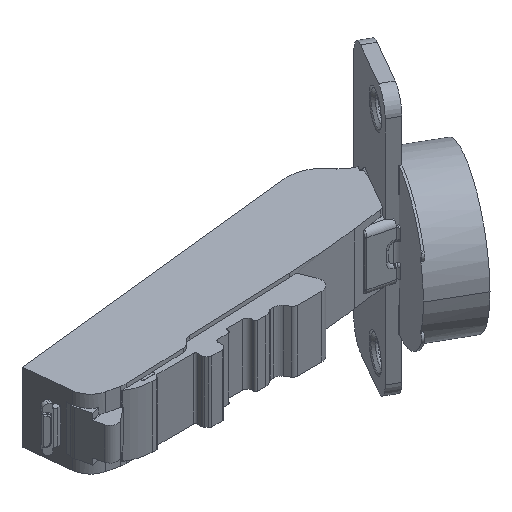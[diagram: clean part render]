
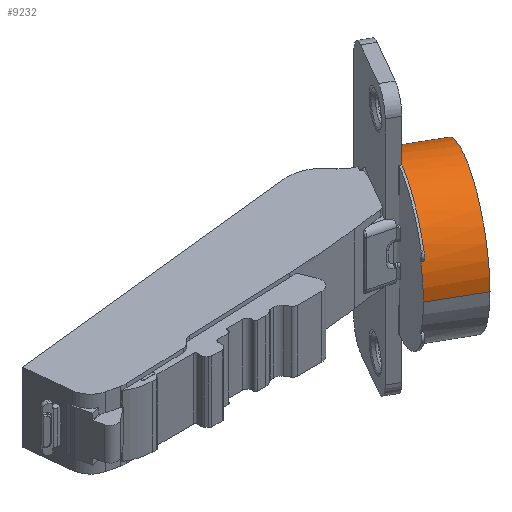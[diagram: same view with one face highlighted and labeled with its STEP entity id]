
A CAD part, isometric view. The second image highlights one B-rep face of the part: STEP entity #9232.
In plain terms, the highlighted cylindrical face has radius 17.4 mm (diameter 34.8 mm), a partial arc.
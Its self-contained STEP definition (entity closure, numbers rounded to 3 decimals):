
#79 = VECTOR ( 'NONE', #2975, 1000. ) ;
#163 = CARTESIAN_POINT ( 'NONE',  ( 0.106, 63.279, 0.05 ) ) ;
#503 = DIRECTION ( 'NONE',  ( 0.866, -0.5, 0. ) ) ;
#526 = DIRECTION ( 'NONE',  ( 0.5, 0.866, 0. ) ) ;
#930 = B_SPLINE_CURVE_WITH_KNOTS ( 'NONE', 3,
 ( #11228, #5762, #3821, #4692 ),
 .UNSPECIFIED., .F., .F.,
 ( 4, 4 ),
 ( 0., 0.001 ),
 .UNSPECIFIED. ) ;
#1232 = LINE ( 'NONE', #6026, #4247 ) ;
#1440 = FACE_OUTER_BOUND ( 'NONE', #5214, .T. ) ;
#1967 = CARTESIAN_POINT ( 'NONE',  ( 43.16, 38.422, 0.05 ) ) ;
#2103 = CARTESIAN_POINT ( 'NONE',  ( 34.027, 23.603, 0.05 ) ) ;
#2856 = CARTESIAN_POINT ( 'NONE',  ( 26.324, 10.262, 8.14 ) ) ;
#2953 = ORIENTED_EDGE ( 'NONE', *, *, #10926, .F. ) ;
#2975 = DIRECTION ( 'NONE',  ( 0.866, -0.5, 0. ) ) ;
#3214 = DIRECTION ( 'NONE',  ( -0.866, 0.5, 0. ) ) ;
#3363 = ORIENTED_EDGE ( 'NONE', *, *, #8184, .T. ) ;
#3549 = EDGE_CURVE ( 'NONE', #7477, #5950, #4778, .T. ) ;
#3669 = EDGE_CURVE ( 'NONE', #7077, #10464, #9625, .T. ) ;
#3676 = EDGE_CURVE ( 'NONE', #3816, #6112, #1232, .T. ) ;
#3747 = EDGE_CURVE ( 'NONE', #5950, #10020, #9235, .T. ) ;
#3790 = CARTESIAN_POINT ( 'NONE',  ( -17.294, 33.142, 0.05 ) ) ;
#3816 = VERTEX_POINT ( 'NONE', #8257 ) ;
#3821 = CARTESIAN_POINT ( 'NONE',  ( 26.243, 10.077, 7.748 ) ) ;
#3973 = ORIENTED_EDGE ( 'NONE', *, *, #3747, .F. ) ;
#4185 = DIRECTION ( 'NONE',  ( 0.5, 0.866, 0. ) ) ;
#4208 = CARTESIAN_POINT ( 'NONE',  ( 44.419, 17.603, 0.05 ) ) ;
#4247 = VECTOR ( 'NONE', #4266, 1000. ) ;
#4266 = DIRECTION ( 'NONE',  ( -0.866, 0.5, 0. ) ) ;
#4692 = CARTESIAN_POINT ( 'NONE',  ( 26.218, 9.982, 7.55 ) ) ;
#4714 = DIRECTION ( 'NONE',  ( 0.866, -0.5, 0. ) ) ;
#4778 = LINE ( 'NONE', #163, #79 ) ;
#4782 = DIRECTION ( 'NONE',  ( 0.866, -0.5, 0. ) ) ;
#5042 = CARTESIAN_POINT ( 'NONE',  ( 53.119, 32.672, 0.05 ) ) ;
#5059 = ORIENTED_EDGE ( 'NONE', *, *, #3549, .F. ) ;
#5083 = DIRECTION ( 'NONE',  ( 0., 0., 1. ) ) ;
#5214 = EDGE_LOOP ( 'NONE', ( #7770, #3363, #3973, #5059, #9036, #9607, #2953 ) ) ;
#5240 = CYLINDRICAL_SURFACE ( 'NONE', #9101, 17.4 ) ;
#5762 = CARTESIAN_POINT ( 'NONE',  ( 26.273, 10.173, 7.944 ) ) ;
#5950 = VERTEX_POINT ( 'NONE', #5042 ) ;
#6026 = CARTESIAN_POINT ( 'NONE',  ( 26.523, 9.806, 7.55 ) ) ;
#6112 = VERTEX_POINT ( 'NONE', #7595 ) ;
#6852 = AXIS2_PLACEMENT_3D ( 'NONE', #4208, #11798, #526 ) ;
#6956 = CIRCLE ( 'NONE', #11719, 17.4 ) ;
#7077 = VERTEX_POINT ( 'NONE', #2856 ) ;
#7477 = VERTEX_POINT ( 'NONE', #1967 ) ;
#7593 = DIRECTION ( 'NONE',  ( -0.5, -0.866, 0. ) ) ;
#7595 = CARTESIAN_POINT ( 'NONE',  ( 26.218, 9.982, 7.55 ) ) ;
#7770 = ORIENTED_EDGE ( 'NONE', *, *, #3669, .T. ) ;
#8092 = VECTOR ( 'NONE', #4782, 1000. ) ;
#8184 = EDGE_CURVE ( 'NONE', #10464, #10020, #12321, .T. ) ;
#8257 = CARTESIAN_POINT ( 'NONE',  ( 26.61, 9.756, 7.55 ) ) ;
#8694 = CARTESIAN_POINT ( 'NONE',  ( 34.46, 23.353, 0.05 ) ) ;
#9036 = ORIENTED_EDGE ( 'NONE', *, *, #10699, .F. ) ;
#9101 = AXIS2_PLACEMENT_3D ( 'NONE', #11658, #503, #4185 ) ;
#9199 = CARTESIAN_POINT ( 'NONE',  ( 25.327, 8.534, 0.05 ) ) ;
#9232 = ADVANCED_FACE ( 'NONE', ( #1440 ), #5240, .T. ) ;
#9235 = CIRCLE ( 'NONE', #6852, 17.4 ) ;
#9607 = ORIENTED_EDGE ( 'NONE', *, *, #3676, .T. ) ;
#9625 = CIRCLE ( 'NONE', #12202, 17.4 ) ;
#10020 = VERTEX_POINT ( 'NONE', #12295 ) ;
#10464 = VERTEX_POINT ( 'NONE', #9199 ) ;
#10699 = EDGE_CURVE ( 'NONE', #3816, #7477, #6956, .T. ) ;
#10926 = EDGE_CURVE ( 'NONE', #7077, #6112, #930, .T. ) ;
#11228 = CARTESIAN_POINT ( 'NONE',  ( 26.324, 10.262, 8.14 ) ) ;
#11658 = CARTESIAN_POINT ( 'NONE',  ( -8.594, 48.21, 0.05 ) ) ;
#11719 = AXIS2_PLACEMENT_3D ( 'NONE', #8694, #3214, #5083 ) ;
#11798 = DIRECTION ( 'NONE',  ( 0.866, -0.5, 0. ) ) ;
#12202 = AXIS2_PLACEMENT_3D ( 'NONE', #2103, #4714, #7593 ) ;
#12295 = CARTESIAN_POINT ( 'NONE',  ( 35.719, 2.534, 0.05 ) ) ;
#12321 = LINE ( 'NONE', #3790, #8092 ) ;
